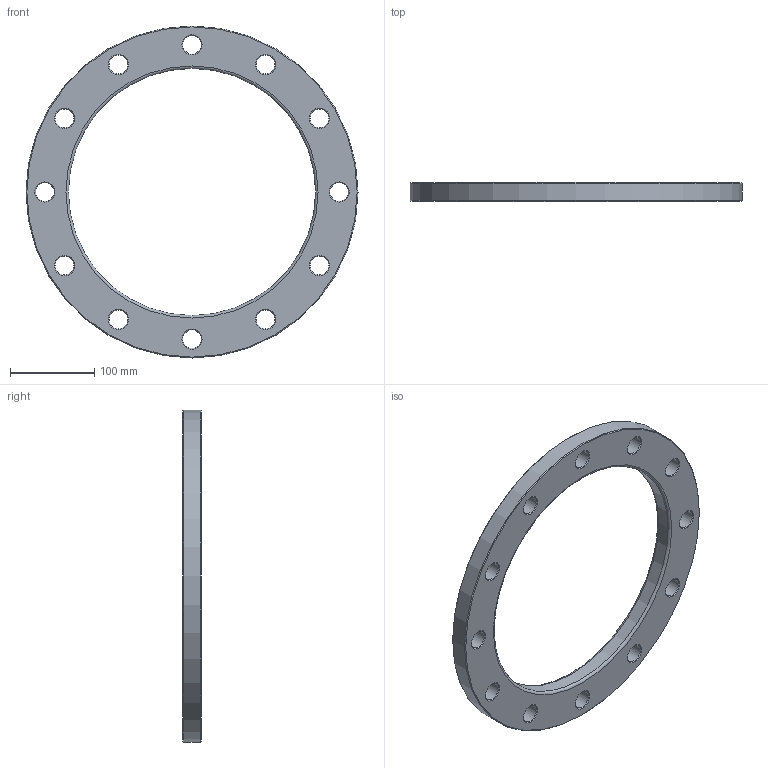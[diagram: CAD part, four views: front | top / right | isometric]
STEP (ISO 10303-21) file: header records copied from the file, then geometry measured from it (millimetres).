
FILE_DESCRIPTION(/* description */ ('Unknown'),/* implementation_level */ '2;1');
FILE_NAME(/* name */ 'FZ280B',/* time_stamp */ '2021-03-15T10:13:37+01:00',/* author */ ('Unknown'),/* organization */ ('Unknown'),/* preprocessor_version */ 'ST-DEVELOPER v16.7',/* originating_system */ 'Solid Edge',/* authorisation */ 'Unknown');
FILE_SCHEMA (('AUTOMOTIVE_DESIGN {1 0 10303 214 3 1 1}'));
Length unit declared in the file: millimetre
Products named in the file (1): FZ280B
Bounding box: 395 x 22 x 395 mm (x, y, z)
Volume: 1096379.1 mm3; surface area: 161286.2 mm2
Topology: 1 solids, 1 shells, 44 faces, 134 edges, 92 vertices
Faces by surface type: cone 26, cylinder 14, plane 2, torus 2
Full cylindrical faces by diameter (mm): 22 x12, 294 x1, 395 x1
Entity records: 1086 total; most frequent: DIRECTION 202, CARTESIAN_POINT 157, ORIENTED_EDGE 112, EDGE_LOOP 112, FACE_BOUND 112, AXIS2_PLACEMENT_3D 101, EDGE_CURVE 56, VERTEX_POINT 56
